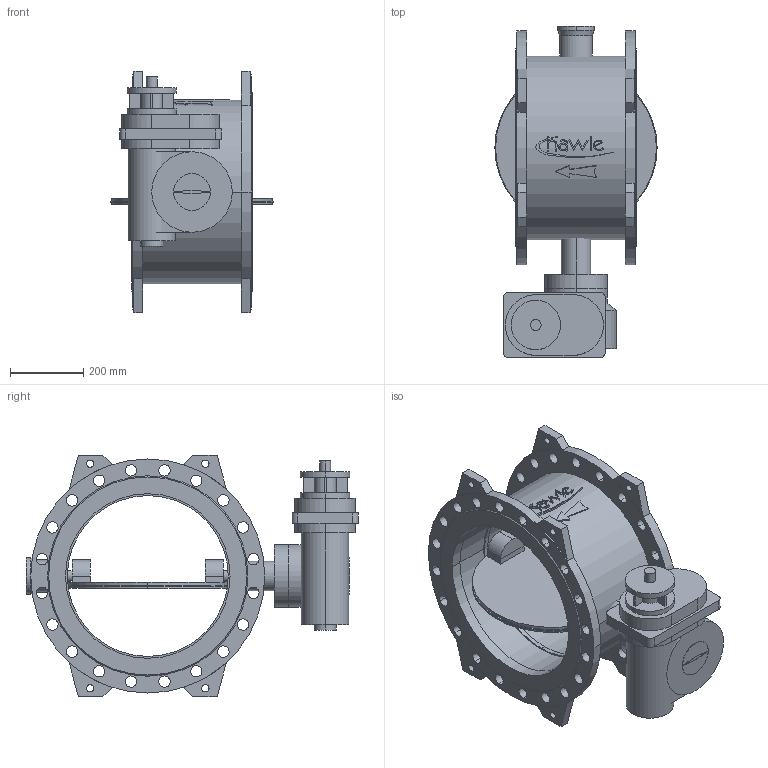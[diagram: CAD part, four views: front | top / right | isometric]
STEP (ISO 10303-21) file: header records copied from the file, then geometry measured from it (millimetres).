
FILE_DESCRIPTION(('STEP AP214'),'1');
FILE_NAME('S:/EK/USER/CAT6/3DHomepage_27-04-2012/neu_08-01-2013/9881K/9881K_PN16_DN450.STP','2013-03-11T15:29:58',(' '),(' '),'Spatial InterOp 3D',' ',' ');
FILE_SCHEMA(('automotive_design'));
Length unit declared in the file: millimetre
Products named in the file (52): 3D-Objekt
Bounding box: 444 x 908 x 660 mm (x, y, z)
Volume: 41015768.9 mm3; surface area: 3595378.5 mm2
Topology: 52 solids, 52 shells, 433 faces, 978 edges, 652 vertices
Faces by surface type: plane 214, cylinder 211, cone 8
Entity records: 17148 total; most frequent: DIRECTION 2386, CARTESIAN_POINT 2115, ORIENTED_EDGE 1956, EDGE_CURVE 978, AXIS2_PLACEMENT_3D 923, VERTEX_POINT 652, EDGE_LOOP 544, LINE 540
